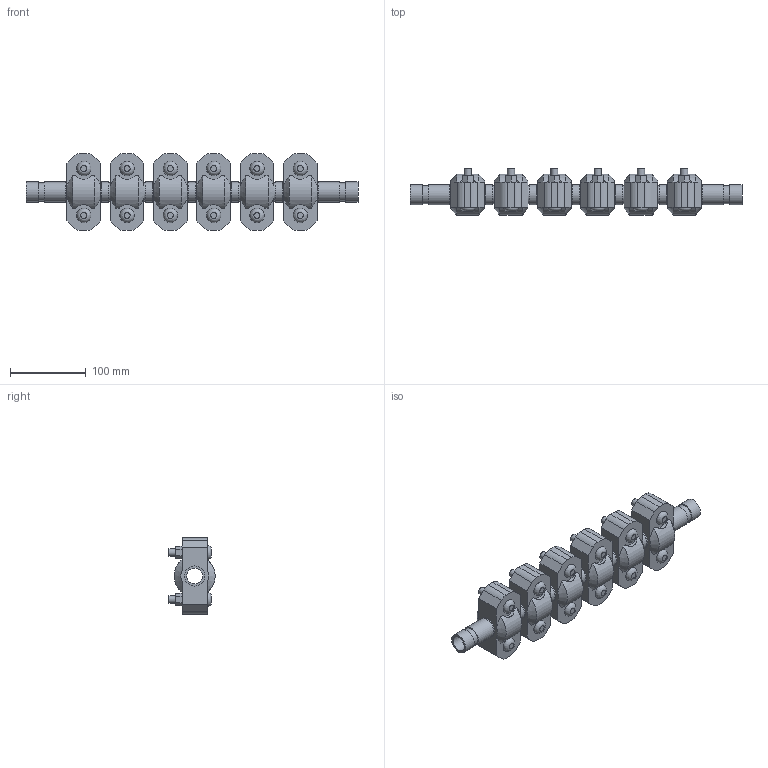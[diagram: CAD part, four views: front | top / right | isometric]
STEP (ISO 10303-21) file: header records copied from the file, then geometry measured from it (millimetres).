
FILE_DESCRIPTION(/* description */ ('VIC EXPANSION JOINT 6 COUPLINGS COMPRESSED STYLE 155 (OGS)','CAx-IF Rec.Pracs.---Representation and Presentation of Product Manufacturing Information (PMI)---4.0---2014-10-13'),/* implementation_level */ '2;1');
FILE_NAME(/* name */ 'C:\Users\kkamble\AppData\Roaming\Autodesk\ApplicationPlugins\Victaulic.Temp\A354\Victaulic_IPS_Expansion Joint_Compressed_6 Couplings_Style 155 (OGS)_0.75 (20).stp',/* time_stamp */ '2021-06-27T00:31:10+02:00',/* author */ ('kkamble'),/* organization */ ('Victaulic'),/* preprocessor_version */ 'ST-DEVELOPER v17.2',/* originating_system */ 'Autodesk Inventor 2019',/* authorisation */ '');
FILE_SCHEMA (('AP242_MANAGED_MODEL_BASED_3D_ENGINEERING_MIM_LF { 1 0 10303 442 1 1 4 }'));
Length unit declared in the file: inch
Products named in the file (4): 155-0.75; Nipple-0.75; Nipple-0.75_1; 077-0.75
Assembly tree (13 placements, depth 2):
  155-0.75
    Nipple-0.75  x2
    Nipple-0.75_1  x5
    077-0.75  x6
Bounding box: 438.15 x 61.1 x 101.6 mm (x, y, z)
Volume: 926423.2 mm3; surface area: 233484.1 mm2
Topology: 13 solids, 25 shells, 426 faces, 1044 edges, 732 vertices
Faces by surface type: plane 246, cylinder 144, cone 24, bspline 12
Full cylindrical faces by diameter (mm): 9.525 x24, 11.43 x12, 20.93 x7, 23.825 x14, 26.67 x27
Entity records: 2923 total; most frequent: CARTESIAN_POINT 575, DIRECTION 471, ORIENTED_EDGE 398, EDGE_CURVE 199, AXIS2_PLACEMENT_3D 188, VERTEX_POINT 142, EDGE_LOOP 105, LINE 95
